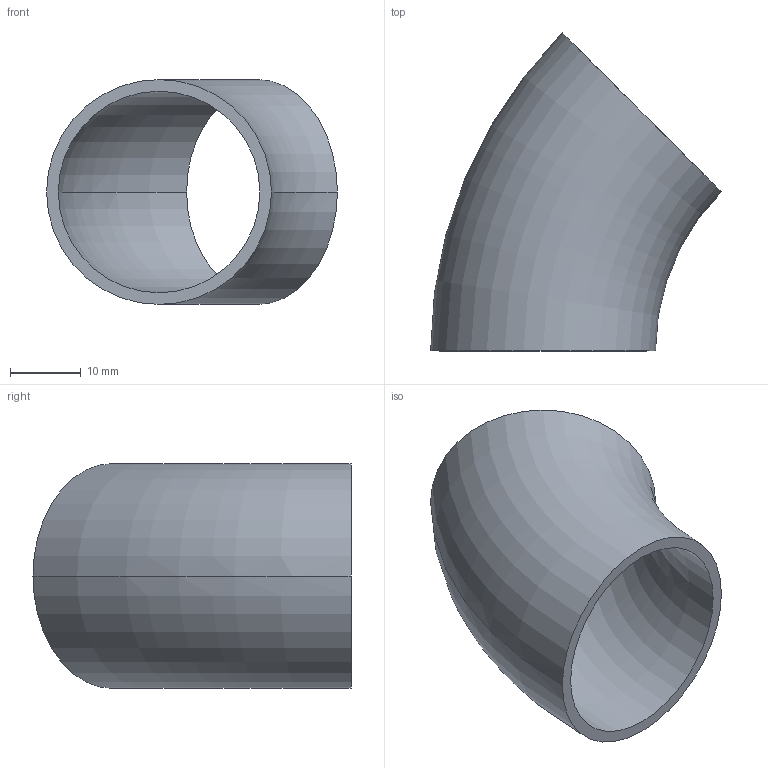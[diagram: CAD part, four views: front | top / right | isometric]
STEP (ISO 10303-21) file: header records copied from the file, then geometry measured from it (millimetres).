
FILE_DESCRIPTION (( 'STEP AP203' ), '1' );
FILE_NAME ('E2WK1.25.STEP', '2018-04-30T18:11:32', ( 'vneprd' ), ( 'Microsoft' ), 'SwSTEP 2.0', 'SolidWorks 2014', '' );
FILE_SCHEMA (( 'CONFIG_CONTROL_DESIGN' ));
Length unit declared in the file: inch
Products named in the file (1): E2WK1.25
Bounding box: 41.05 x 44.9 x 31.75 mm (x, y, z)
Volume: 5839.5 mm3; surface area: 7386.1 mm2
Topology: 1 solids, 1 shells, 6 faces, 12 edges, 8 vertices
Faces by surface type: torus 4, plane 2
Entity records: 251 total; most frequent: DIRECTION 38, CARTESIAN_POINT 27, ORIENTED_EDGE 24, AXIS2_PLACEMENT_3D 19, CIRCLE 12, EDGE_CURVE 12, EDGE_LOOP 8, PERSON_AND_ORGANIZATION 8
